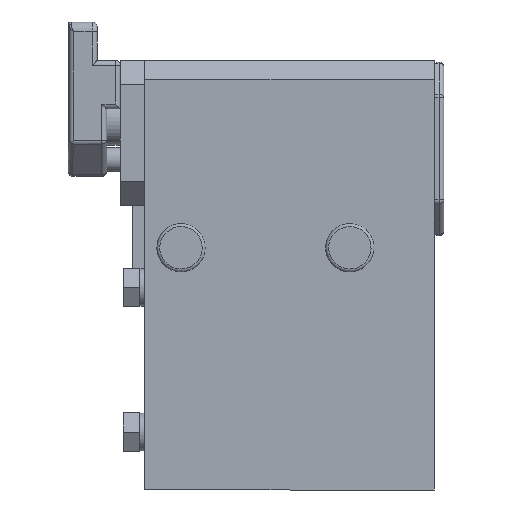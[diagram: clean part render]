
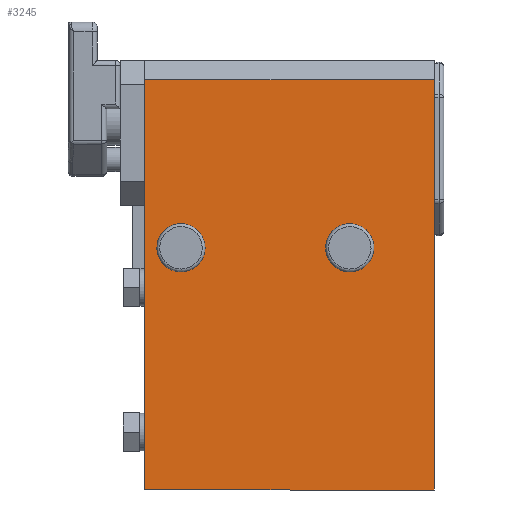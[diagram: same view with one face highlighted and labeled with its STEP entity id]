
A CAD part, front view. The second image highlights one B-rep face of the part: STEP entity #3245.
In plain terms, the highlighted planar face has unit normal (0, -1, 0).
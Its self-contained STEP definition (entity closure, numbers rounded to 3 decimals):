
#132=FACE_BOUND('',#491,.T.);
#133=FACE_BOUND('',#492,.T.);
#175=CIRCLE('',#3447,5.);
#176=CIRCLE('',#3448,5.);
#291=FACE_OUTER_BOUND('',#490,.T.);
#490=EDGE_LOOP('',(#2052,#2053,#2054,#2055));
#491=EDGE_LOOP('',(#2056));
#492=EDGE_LOOP('',(#2057));
#732=LINE('',#4707,#1030);
#733=LINE('',#4709,#1031);
#734=LINE('',#4711,#1032);
#735=LINE('',#4712,#1033);
#1030=VECTOR('',#3769,85.);
#1031=VECTOR('',#3770,60.);
#1032=VECTOR('',#3771,85.);
#1033=VECTOR('',#3772,60.);
#1328=VERTEX_POINT('',#4705);
#1329=VERTEX_POINT('',#4706);
#1330=VERTEX_POINT('',#4708);
#1331=VERTEX_POINT('',#4710);
#1332=VERTEX_POINT('',#4713);
#1333=VERTEX_POINT('',#4715);
#1610=EDGE_CURVE('',#1328,#1329,#732,.T.);
#1611=EDGE_CURVE('',#1329,#1330,#733,.T.);
#1612=EDGE_CURVE('',#1330,#1331,#734,.T.);
#1613=EDGE_CURVE('',#1331,#1328,#735,.T.);
#1614=EDGE_CURVE('',#1332,#1332,#175,.T.);
#1615=EDGE_CURVE('',#1333,#1333,#176,.T.);
#2052=ORIENTED_EDGE('',*,*,#1610,.T.);
#2053=ORIENTED_EDGE('',*,*,#1611,.T.);
#2054=ORIENTED_EDGE('',*,*,#1612,.T.);
#2055=ORIENTED_EDGE('',*,*,#1613,.T.);
#2056=ORIENTED_EDGE('',*,*,#1614,.F.);
#2057=ORIENTED_EDGE('',*,*,#1615,.F.);
#2936=PLANE('',#3446);
#3245=ADVANCED_FACE('',(#291,#132,#133),#2936,.F.);
#3446=AXIS2_PLACEMENT_3D('',#4704,#3767,#3768);
#3447=AXIS2_PLACEMENT_3D('',#4714,#3773,#3774);
#3448=AXIS2_PLACEMENT_3D('',#4716,#3775,#3776);
#3767=DIRECTION('center_axis',(0.,1.,0.));
#3768=DIRECTION('ref_axis',(-1.,0.,0.));
#3769=DIRECTION('',(0.,0.,1.));
#3770=DIRECTION('',(-1.,0.,0.));
#3771=DIRECTION('',(0.,0.,-1.));
#3772=DIRECTION('',(1.,0.,0.));
#3773=DIRECTION('center_axis',(0.,-1.,0.));
#3774=DIRECTION('ref_axis',(-0.789,0.,-0.614));
#3775=DIRECTION('center_axis',(0.,-1.,0.));
#3776=DIRECTION('ref_axis',(1.,0.,0.014));
#4704=CARTESIAN_POINT('Origin',(0.,0.,
89.));
#4705=CARTESIAN_POINT('',(60.,0.,0.));
#4706=CARTESIAN_POINT('',(60.,0.,85.));
#4707=CARTESIAN_POINT('',(60.,0.,0.));
#4708=CARTESIAN_POINT('',(0.,0.,85.));
#4709=CARTESIAN_POINT('',(60.,0.,85.));
#4710=CARTESIAN_POINT('',(0.,0.,0.));
#4711=CARTESIAN_POINT('',(0.,0.,85.));
#4712=CARTESIAN_POINT('',(0.,0.,0.));
#4713=CARTESIAN_POINT('',(46.446,0.,53.27));
#4714=CARTESIAN_POINT('Origin',(42.5,0.,50.2));
#4715=CARTESIAN_POINT('',(2.5,0.,50.132));
#4716=CARTESIAN_POINT('Origin',(7.5,0.,50.2));
